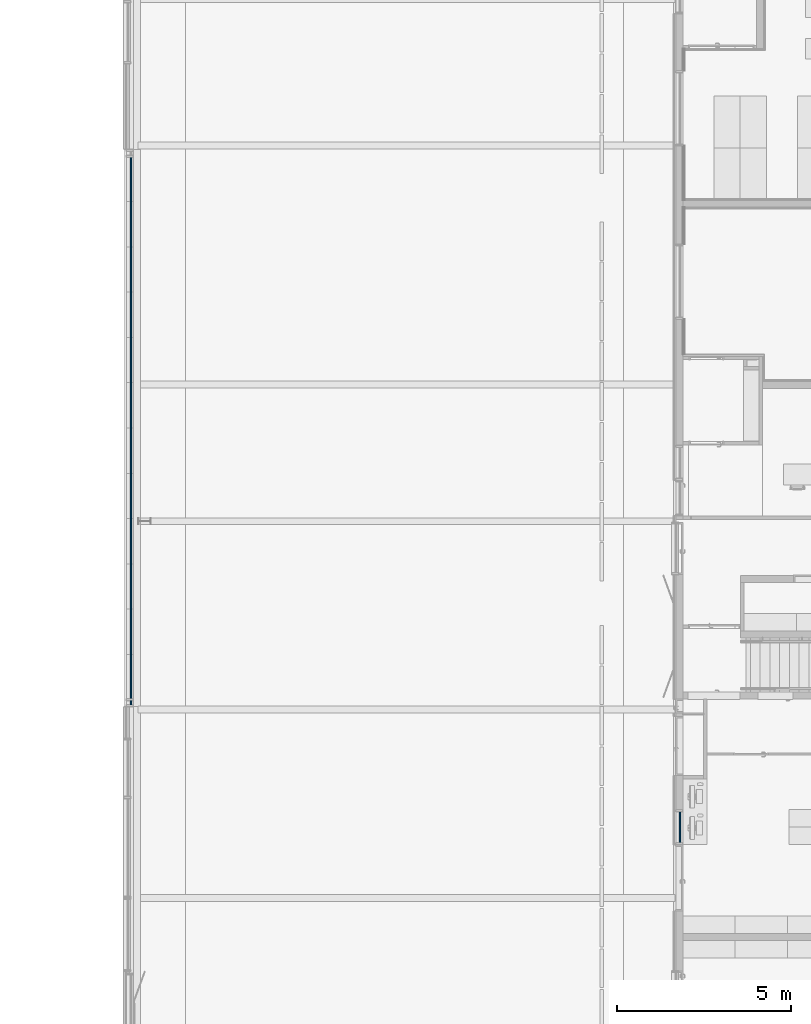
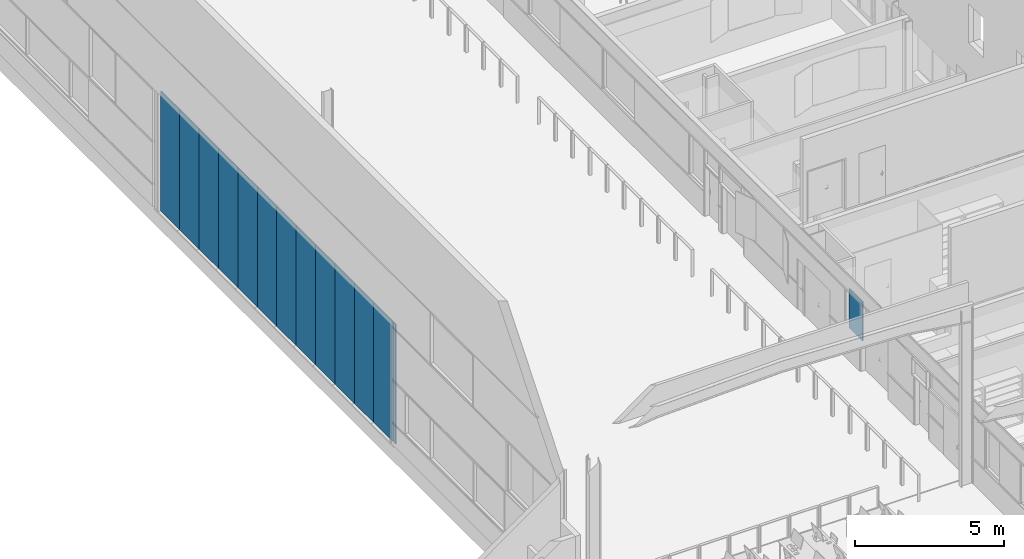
# One storey, part 29 of 137: 14 plates, 2 elements without a shape of their own.
"""IFC2X3 building model written with IfcOpenShell, lengths in centimetres."""

from ifc_helpers import new_model, entity, si_unit, converted_unit, derived_unit, direction, frame, frame_2d, origin, origin_2d_with_axis, place, context, subcontext, project, spatial, rectangle, extrude, source, transform, mapped, material, type_object, type_shapes, element, aggregate, save


model = new_model("IFC2X3")

# Units and contexts
model_context = context("Model", 3, precision=0.001, world=origin(), true_north=direction((6.12303176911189e-17, 1.0)))
body_context = subcontext(model_context, "Body", "Model", "MODEL_VIEW")
ifc_project = project(units=[si_unit("LENGTHUNIT", "METRE", prefix="CENTI"), si_unit("AREAUNIT", "SQUARE_METRE"), si_unit("VOLUMEUNIT", "CUBIC_METRE"), converted_unit("PLANEANGLEUNIT", "DEGREE", entity("IfcRatioMeasure", 0.0174532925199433), si_unit("PLANEANGLEUNIT", "RADIAN"), dimensions=[0, 0, 0, 0, 0, 0, 0]), si_unit("MASSUNIT", "GRAM", prefix="KILO"), si_unit("TIMEUNIT", "SECOND"), si_unit("FREQUENCYUNIT", "HERTZ"), si_unit("THERMODYNAMICTEMPERATUREUNIT", "DEGREE_CELSIUS"), derived_unit("THERMALTRANSMITTANCEUNIT", [(si_unit("MASSUNIT", "GRAM", prefix="KILO"), 1), (si_unit("THERMODYNAMICTEMPERATUREUNIT", "KELVIN"), -1), (si_unit("TIMEUNIT", "SECOND"), -3)]), derived_unit("VOLUMETRICFLOWRATEUNIT", [(si_unit("LENGTHUNIT", "METRE"), 3), (si_unit("TIMEUNIT", "SECOND"), -1)]), si_unit("ELECTRICCURRENTUNIT", "AMPERE"), si_unit("ELECTRICVOLTAGEUNIT", "VOLT"), si_unit("POWERUNIT", "WATT"), si_unit("FORCEUNIT", "NEWTON", prefix="KILO"), si_unit("ILLUMINANCEUNIT", "LUX"), si_unit("LUMINOUSFLUXUNIT", "LUMEN"), si_unit("LUMINOUSINTENSITYUNIT", "CANDELA"), derived_unit("USERDEFINED", [(si_unit("MASSUNIT", "GRAM", prefix="KILO"), -1), (si_unit("LENGTHUNIT", "METRE"), -2), (si_unit("TIMEUNIT", "SECOND"), 3), (si_unit("LUMINOUSFLUXUNIT", "LUMEN"), 1)]), derived_unit("LINEARVELOCITYUNIT", [(si_unit("LENGTHUNIT", "METRE"), 1), (si_unit("TIMEUNIT", "SECOND"), -1)]), si_unit("PRESSUREUNIT", "PASCAL"), derived_unit("USERDEFINED", [(si_unit("LENGTHUNIT", "METRE"), -2), (si_unit("MASSUNIT", "GRAM", prefix="KILO"), 1), (si_unit("TIMEUNIT", "SECOND"), -2)])], contexts=[model_context])

# Site, building, storey
site_placement = place(None, frame((8.62739174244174, -249.285249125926, 0.0)))
site = spatial("IfcSite", under=ifc_project, at=site_placement, Name="Default", CompositionType="ELEMENT")
building_placement = place(site_placement, origin())
building = spatial("IfcBuilding", under=site, at=building_placement, CompositionType="ELEMENT")
storey_placement = place(building_placement, origin())
storey = spatial("IfcBuildingStorey", under=building, at=storey_placement, Name="RDC", CompositionType="ELEMENT", Elevation=-8.82465566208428e-11)

# Curtain wall, plates
curtain_wall_type = type_object("IfcCurtainWallType", Name="Mur-rideau:Simple panneau", PredefinedType="NOTDEFINED")
curtain_wall_1_placement = place(storey_placement, origin())
curtain_wall_1 = element("IfcCurtainWall", 1, at=curtain_wall_1_placement, inside=storey, type_object=curtain_wall_type, Name="Mur-rideau:Simple panneau", ObjectType="Mur-rideau:Simple panneau")
ifc_material_1 = material(Name="Par défaut")
plate_type_1 = type_object("IfcPlateType", Name="Plein", PredefinedType="CURTAIN_PANEL", material=ifc_material_1)
shared_shape_1 = source(origin(), body_context, "Body", "SweptSolid", [
    extrude(rectangle(XDim=4.0, YDim=12.4999999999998, at=frame_2d((4.44089209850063e-16, 0.0), x_axis=(1.0, 0.0))), frame((0.0, 2.50000000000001, 0.0), z_axis=(0.0, 0.0, 1.0), x_axis=(0.0, 1.0, 0.0)), (0.0, 0.0, 1.0), 490.0),
])
type_shapes(plate_type_1, [shared_shape_1])
plate_1_placement = place(curtain_wall_1_placement, frame((1466.9048277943, 4672.52522290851, 5.0), z_axis=(0.0, 0.0, 1.0), x_axis=(0.0, -1.0, 0.0)))
plate_1 = element("IfcPlate", 2, at=plate_1_placement, type_object=plate_type_1, material=ifc_material_1, Name="Panneau système:Plein", ObjectType="Plein", context=body_context, shape_type="MappedRepresentation", body=[
    mapped(shared_shape_1, transform((0.0, 0.0, 0.0), scale=1.0)),
])
ifc_material_2 = material(Name="Verre")
plate_type_2 = type_object("IfcPlateType", Name="Vitré", PredefinedType="CURTAIN_PANEL", material=ifc_material_2)
shared_shape_2 = source(origin(), body_context, "Body", "SweptSolid", [
    extrude(rectangle(XDim=4.0, YDim=127.5, at=frame_2d((4.44089209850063e-16, 0.0), x_axis=(1.0, 0.0))), frame((0.0, 2.50000000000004, 0.0), z_axis=(0.0, 0.0, 1.0), x_axis=(0.0, 1.0, 0.0)), (0.0, 0.0, 1.0), 490.0),
])
type_shapes(plate_type_2, [shared_shape_2])
plate_2_placement = place(curtain_wall_1_placement, frame((1466.9048277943, 6175.02522290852, 5.0), z_axis=(0.0, 0.0, 1.0), x_axis=(0.0, -1.0, 0.0)))
plate_2 = element("IfcPlate", 3, at=plate_2_placement, type_object=plate_type_2, material=ifc_material_2, Name="Panneau système:Vitré", ObjectType="Vitré", context=body_context, shape_type="MappedRepresentation", body=[
    mapped(shared_shape_2, transform((0.0, 0.0, 0.0), scale=1.0)),
])
plate_3_placement = place(curtain_wall_1_placement, frame((1466.9048277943, 4747.52522290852, 5.0), z_axis=(0.0, 0.0, 1.0), x_axis=(0.0, -1.0, 0.0)))
plate_3 = element("IfcPlate", 4, at=plate_3_placement, type_object=plate_type_2, material=ifc_material_2, Name="Panneau système:Vitré", ObjectType="Vitré", context=body_context, shape_type="MappedRepresentation", body=[
    mapped(shared_shape_2, transform((0.0, 0.0, 0.0), scale=1.0)),
])
plate_type_3 = type_object("IfcPlateType", Name="Vitré", PredefinedType="CURTAIN_PANEL", material=ifc_material_2)
shared_shape_3 = source(origin(), body_context, "Body", "SweptSolid", [
    extrude(rectangle(XDim=4.0, YDim=130.0, at=frame_2d((4.44089209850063e-16, 0.0), x_axis=(1.0, 0.0))), frame((0.0, 2.50000000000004, 0.0), z_axis=(0.0, 0.0, 1.0), x_axis=(0.0, 1.0, 0.0)), (0.0, 0.0, 1.0), 490.0),
])
type_shapes(plate_type_3, [shared_shape_3])
plate_4_placement = place(curtain_wall_1_placement, frame((1466.9048277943, 6046.27522290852, 5.0), z_axis=(0.0, 0.0, 1.0), x_axis=(0.0, -1.0, 0.0)))
plate_4 = element("IfcPlate", 5, at=plate_4_placement, type_object=plate_type_3, material=ifc_material_2, Name="Panneau système:Vitré", ObjectType="Vitré", context=body_context, shape_type="MappedRepresentation", body=[
    mapped(shared_shape_3, transform((0.0, 0.0, 0.0), scale=1.0)),
])
plate_5_placement = place(curtain_wall_1_placement, frame((1466.9048277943, 5916.27522290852, 5.0), z_axis=(0.0, 0.0, 1.0), x_axis=(0.0, -1.0, 0.0)))
plate_5 = element("IfcPlate", 6, at=plate_5_placement, type_object=plate_type_3, material=ifc_material_2, Name="Panneau système:Vitré", ObjectType="Vitré", context=body_context, shape_type="MappedRepresentation", body=[
    mapped(shared_shape_3, transform((0.0, 0.0, 0.0), scale=1.0)),
])
plate_6_placement = place(curtain_wall_1_placement, frame((1466.9048277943, 5786.27522290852, 5.0), z_axis=(0.0, 0.0, 1.0), x_axis=(0.0, -1.0, 0.0)))
plate_6 = element("IfcPlate", 7, at=plate_6_placement, type_object=plate_type_3, material=ifc_material_2, Name="Panneau système:Vitré", ObjectType="Vitré", context=body_context, shape_type="MappedRepresentation", body=[
    mapped(shared_shape_3, transform((0.0, 0.0, 0.0), scale=1.0)),
])
plate_7_placement = place(curtain_wall_1_placement, frame((1466.9048277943, 5656.27522290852, 5.0), z_axis=(0.0, 0.0, 1.0), x_axis=(0.0, -1.0, 0.0)))
plate_7 = element("IfcPlate", 8, at=plate_7_placement, type_object=plate_type_3, material=ifc_material_2, Name="Panneau système:Vitré", ObjectType="Vitré", context=body_context, shape_type="MappedRepresentation", body=[
    mapped(shared_shape_3, transform((0.0, 0.0, 0.0), scale=1.0)),
])
plate_8_placement = place(curtain_wall_1_placement, frame((1466.9048277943, 5526.27522290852, 5.0), z_axis=(0.0, 0.0, 1.0), x_axis=(0.0, -1.0, 0.0)))
plate_8 = element("IfcPlate", 9, at=plate_8_placement, type_object=plate_type_3, material=ifc_material_2, Name="Panneau système:Vitré", ObjectType="Vitré", context=body_context, shape_type="MappedRepresentation", body=[
    mapped(shared_shape_3, transform((0.0, 0.0, 0.0), scale=1.0)),
])
plate_9_placement = place(curtain_wall_1_placement, frame((1466.9048277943, 5396.27522290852, 5.0), z_axis=(0.0, 0.0, 1.0), x_axis=(0.0, -1.0, 0.0)))
plate_9 = element("IfcPlate", 10, at=plate_9_placement, type_object=plate_type_3, material=ifc_material_2, Name="Panneau système:Vitré", ObjectType="Vitré", context=body_context, shape_type="MappedRepresentation", body=[
    mapped(shared_shape_3, transform((0.0, 0.0, 0.0), scale=1.0)),
])
plate_10_placement = place(curtain_wall_1_placement, frame((1466.9048277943, 5266.27522290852, 5.0), z_axis=(0.0, 0.0, 1.0), x_axis=(0.0, -1.0, 0.0)))
plate_10 = element("IfcPlate", 11, at=plate_10_placement, type_object=plate_type_3, material=ifc_material_2, Name="Panneau système:Vitré", ObjectType="Vitré", context=body_context, shape_type="MappedRepresentation", body=[
    mapped(shared_shape_3, transform((0.0, 0.0, 0.0), scale=1.0)),
])
plate_11_placement = place(curtain_wall_1_placement, frame((1466.9048277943, 5136.27522290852, 5.0), z_axis=(0.0, 0.0, 1.0), x_axis=(0.0, -1.0, 0.0)))
plate_11 = element("IfcPlate", 12, at=plate_11_placement, type_object=plate_type_3, material=ifc_material_2, Name="Panneau système:Vitré", ObjectType="Vitré", context=body_context, shape_type="MappedRepresentation", body=[
    mapped(shared_shape_3, transform((0.0, 0.0, 0.0), scale=1.0)),
])
plate_12_placement = place(curtain_wall_1_placement, frame((1466.9048277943, 5006.27522290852, 5.0), z_axis=(0.0, 0.0, 1.0), x_axis=(0.0, -1.0, 0.0)))
plate_12 = element("IfcPlate", 13, at=plate_12_placement, type_object=plate_type_3, material=ifc_material_2, Name="Panneau système:Vitré", ObjectType="Vitré", context=body_context, shape_type="MappedRepresentation", body=[
    mapped(shared_shape_3, transform((0.0, 0.0, 0.0), scale=1.0)),
])
plate_13_placement = place(curtain_wall_1_placement, frame((1466.9048277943, 4876.27522290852, 5.0), z_axis=(0.0, 0.0, 1.0), x_axis=(0.0, -1.0, 0.0)))
plate_13 = element("IfcPlate", 14, at=plate_13_placement, type_object=plate_type_3, material=ifc_material_2, Name="Panneau système:Vitré", ObjectType="Vitré", context=body_context, shape_type="MappedRepresentation", body=[
    mapped(shared_shape_3, transform((0.0, 0.0, 0.0), scale=1.0)),
])
aggregate(curtain_wall_1, [plate_2, plate_4, plate_5, plate_6, plate_7, plate_8, plate_9, plate_10, plate_11, plate_12, plate_13, plate_3, plate_1])

# Curtain wall, plate
curtain_wall_2_placement = place(storey_placement, origin())
curtain_wall_2 = element("IfcCurtainWall", 15, at=curtain_wall_2_placement, inside=storey, type_object=curtain_wall_type, Name="Mur-rideau:Simple panneau", ObjectType="Mur-rideau:Simple panneau")
plate_type_4 = type_object("IfcPlateType", Name="Vitré", PredefinedType="CURTAIN_PANEL", material=ifc_material_2)
shared_shape_4 = source(origin(), body_context, "Body", "SweptSolid", [
    extrude(rectangle(XDim=4.0, YDim=89.9999999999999, at=origin_2d_with_axis()), frame((0.0, -2.50000000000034, 0.0), z_axis=(0.0, 0.0, 1.0), x_axis=(0.0, 1.0, 0.0)), (0.0, 0.0, 1.0), 160.0),
])
type_shapes(plate_type_4, [shared_shape_4])
plate_14_placement = place(curtain_wall_2_placement, frame((3043.9048277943, 4315.18519336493, 115.0), z_axis=(0.0, 0.0, 1.0), x_axis=(0.0, 1.0, 0.0)))
plate_14 = element("IfcPlate", 16, at=plate_14_placement, type_object=plate_type_4, material=ifc_material_2, Name="Panneau système:Vitré", ObjectType="Vitré", context=body_context, shape_type="MappedRepresentation", body=[
    mapped(shared_shape_4, transform((0.0, 0.0, 0.0), scale=1.0)),
])
aggregate(curtain_wall_2, [plate_14])

save(model, "model.ifc")
